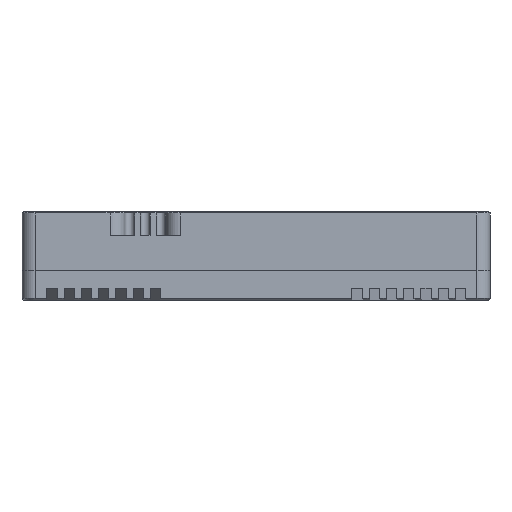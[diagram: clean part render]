
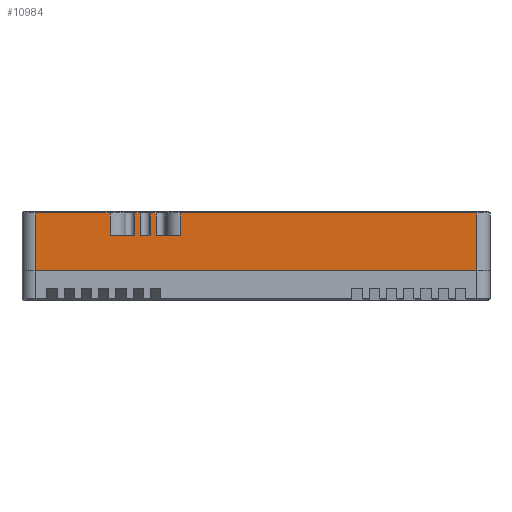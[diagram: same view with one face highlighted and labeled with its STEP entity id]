
A CAD part, front view. The second image highlights one B-rep face of the part: STEP entity #10984.
In plain terms, the highlighted planar face has unit normal (0, -1, 0).
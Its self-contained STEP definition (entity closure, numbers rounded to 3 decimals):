
#356 = EDGE_CURVE ( 'NONE', #24618, #16565, #3254, .T. ) ;
#422 = LINE ( 'NONE', #9062, #7147 ) ;
#469 = VECTOR ( 'NONE', #11800, 1000. ) ;
#552 = DIRECTION ( 'NONE',  ( 1., 0., 0. ) ) ;
#763 = DIRECTION ( 'NONE',  ( 0., 0., 1. ) ) ;
#1054 = CARTESIAN_POINT ( 'NONE',  ( -19.4, -15., 4.6 ) ) ;
#1132 = VERTEX_POINT ( 'NONE', #1054 ) ;
#1952 = EDGE_CURVE ( 'NONE', #26897, #9536, #422, .T. ) ;
#2014 = VECTOR ( 'NONE', #11668, 1000. ) ;
#2233 = VERTEX_POINT ( 'NONE', #32897 ) ;
#2495 = AXIS2_PLACEMENT_3D ( 'NONE', #16435, #26849, #19014 ) ;
#2503 = CARTESIAN_POINT ( 'NONE',  ( -12.7, -15., 4.6 ) ) ;
#3091 = VECTOR ( 'NONE', #6362, 1000. ) ;
#3134 = VECTOR ( 'NONE', #22084, 1000. ) ;
#3254 = LINE ( 'NONE', #15273, #11971 ) ;
#3715 = CARTESIAN_POINT ( 'NONE',  ( -17.8, -15., 8.3 ) ) ;
#3923 = VERTEX_POINT ( 'NONE', #30844 ) ;
#3998 = VERTEX_POINT ( 'NONE', #21116 ) ;
#4529 = VECTOR ( 'NONE', #20624, 1000. ) ;
#4909 = EDGE_CURVE ( 'NONE', #16565, #27508, #5363, .T. ) ;
#5109 = EDGE_CURVE ( 'NONE', #24606, #1132, #24399, .T. ) ;
#5363 = LINE ( 'NONE', #10158, #28356 ) ;
#5375 = CARTESIAN_POINT ( 'NONE',  ( -37.05, -15., 8.3 ) ) ;
#5820 = EDGE_CURVE ( 'NONE', #19105, #27508, #26006, .T. ) ;
#5823 = EDGE_CURVE ( 'NONE', #24618, #26897, #12526, .T. ) ;
#5951 = ORIENTED_EDGE ( 'NONE', *, *, #17058, .F. ) ;
#5981 = VECTOR ( 'NONE', #24376, 1000. ) ;
#6362 = DIRECTION ( 'NONE',  ( 1., 0., 0. ) ) ;
#6380 = ORIENTED_EDGE ( 'NONE', *, *, #1952, .T. ) ;
#6560 = CARTESIAN_POINT ( 'NONE',  ( -17.8, -15., 8.3 ) ) ;
#7002 = CARTESIAN_POINT ( 'NONE',  ( -24.5, -15., 8.3 ) ) ;
#7147 = VECTOR ( 'NONE', #14032, 1000. ) ;
#7191 = LINE ( 'NONE', #22252, #469 ) ;
#7494 = LINE ( 'NONE', #29825, #3134 ) ;
#7794 = EDGE_CURVE ( 'NONE', #3998, #10581, #28273, .T. ) ;
#8146 = VECTOR ( 'NONE', #19850, 1000. ) ;
#8393 = VECTOR ( 'NONE', #21807, 1000. ) ;
#8538 = ORIENTED_EDGE ( 'NONE', *, *, #7794, .T. ) ;
#8948 = EDGE_CURVE ( 'NONE', #27428, #3923, #27012, .T. ) ;
#9000 = ORIENTED_EDGE ( 'NONE', *, *, #28820, .F. ) ;
#9052 = CARTESIAN_POINT ( 'NONE',  ( -17.8, -15., 8.3 ) ) ;
#9062 = CARTESIAN_POINT ( 'NONE',  ( 36.95, -15., -1.3 ) ) ;
#9105 = PLANE ( 'NONE',  #2495 ) ;
#9536 = VERTEX_POINT ( 'NONE', #13998 ) ;
#9608 = CARTESIAN_POINT ( 'NONE',  ( -37.05, -15., -1.3 ) ) ;
#10158 = CARTESIAN_POINT ( 'NONE',  ( -37.05, -15., 8.3 ) ) ;
#10303 = ORIENTED_EDGE ( 'NONE', *, *, #5820, .T. ) ;
#10581 = VERTEX_POINT ( 'NONE', #2503 ) ;
#10681 = EDGE_LOOP ( 'NONE', ( #24512, #5951, #24014, #14441, #26543, #24586, #10303, #23547, #17389, #28512, #6380, #22921, #8538, #14587, #29502, #9000 ) ) ;
#10984 = ADVANCED_FACE ( 'NONE', ( #20933 ), #9105, .T. ) ;
#11379 = EDGE_CURVE ( 'NONE', #3998, #9536, #28836, .T. ) ;
#11668 = DIRECTION ( 'NONE',  ( 0., 0., -1. ) ) ;
#11800 = DIRECTION ( 'NONE',  ( -1., 0., 0. ) ) ;
#11971 = VECTOR ( 'NONE', #763, 1000. ) ;
#12035 = CARTESIAN_POINT ( 'NONE',  ( -24.5, -15., 4.6 ) ) ;
#12526 = LINE ( 'NONE', #9608, #29187 ) ;
#13998 = CARTESIAN_POINT ( 'NONE',  ( 36.95, -15., 8.3 ) ) ;
#14032 = DIRECTION ( 'NONE',  ( 0., 0., 1. ) ) ;
#14441 = ORIENTED_EDGE ( 'NONE', *, *, #25310, .F. ) ;
#14587 = ORIENTED_EDGE ( 'NONE', *, *, #32534, .T. ) ;
#15273 = CARTESIAN_POINT ( 'NONE',  ( -37.05, -15., -1.3 ) ) ;
#16001 = CARTESIAN_POINT ( 'NONE',  ( -17.8, -15., 4.6 ) ) ;
#16435 = CARTESIAN_POINT ( 'NONE',  ( -37.05, -15., -6.5 ) ) ;
#16565 = VERTEX_POINT ( 'NONE', #5375 ) ;
#17058 = EDGE_CURVE ( 'NONE', #1132, #27182, #20256, .T. ) ;
#17072 = VECTOR ( 'NONE', #20422, 1000. ) ;
#17158 = CARTESIAN_POINT ( 'NONE',  ( 36.95, -15., -1.3 ) ) ;
#17389 = ORIENTED_EDGE ( 'NONE', *, *, #356, .F. ) ;
#17891 = CARTESIAN_POINT ( 'NONE',  ( -19.4, -15., 4.6 ) ) ;
#18165 = CARTESIAN_POINT ( 'NONE',  ( -19.4, -15., 8.3 ) ) ;
#18778 = DIRECTION ( 'NONE',  ( 1., 0., 0. ) ) ;
#19014 = DIRECTION ( 'NONE',  ( 0., 0., -1. ) ) ;
#19105 = VERTEX_POINT ( 'NONE', #12035 ) ;
#19196 = CARTESIAN_POINT ( 'NONE',  ( -20.4, -15., 8.3 ) ) ;
#19850 = DIRECTION ( 'NONE',  ( 0., 0., 1. ) ) ;
#19980 = VERTEX_POINT ( 'NONE', #9052 ) ;
#19999 = LINE ( 'NONE', #22351, #24739 ) ;
#20256 = LINE ( 'NONE', #17891, #17072 ) ;
#20422 = DIRECTION ( 'NONE',  ( 1., 0., 0. ) ) ;
#20624 = DIRECTION ( 'NONE',  ( 1., 0., 0. ) ) ;
#20794 = DIRECTION ( 'NONE',  ( 0., 0., -1. ) ) ;
#20933 = FACE_OUTER_BOUND ( 'NONE', #10681, .T. ) ;
#21116 = CARTESIAN_POINT ( 'NONE',  ( -12.7, -15., 8.3 ) ) ;
#21807 = DIRECTION ( 'NONE',  ( 0., 0., -1. ) ) ;
#21946 = CARTESIAN_POINT ( 'NONE',  ( -16.8, -15., 8.3 ) ) ;
#22084 = DIRECTION ( 'NONE',  ( -1., 0., 0. ) ) ;
#22133 = VECTOR ( 'NONE', #18778, 1000. ) ;
#22248 = DIRECTION ( 'NONE',  ( 0., 0., -1. ) ) ;
#22252 = CARTESIAN_POINT ( 'NONE',  ( -20.4, -15., 4.6 ) ) ;
#22351 = CARTESIAN_POINT ( 'NONE',  ( -16.8, -15., 8.3 ) ) ;
#22819 = CARTESIAN_POINT ( 'NONE',  ( -24.5, -15., 4.6 ) ) ;
#22921 = ORIENTED_EDGE ( 'NONE', *, *, #11379, .F. ) ;
#23177 = CARTESIAN_POINT ( 'NONE',  ( -20.4, -15., 8.3 ) ) ;
#23289 = VERTEX_POINT ( 'NONE', #21946 ) ;
#23547 = ORIENTED_EDGE ( 'NONE', *, *, #4909, .F. ) ;
#24014 = ORIENTED_EDGE ( 'NONE', *, *, #5109, .F. ) ;
#24376 = DIRECTION ( 'NONE',  ( 0., 0., -1. ) ) ;
#24399 = LINE ( 'NONE', #18165, #29921 ) ;
#24476 = EDGE_CURVE ( 'NONE', #3923, #19105, #7191, .T. ) ;
#24512 = ORIENTED_EDGE ( 'NONE', *, *, #31847, .T. ) ;
#24586 = ORIENTED_EDGE ( 'NONE', *, *, #24476, .T. ) ;
#24606 = VERTEX_POINT ( 'NONE', #27875 ) ;
#24618 = VERTEX_POINT ( 'NONE', #30084 ) ;
#24739 = VECTOR ( 'NONE', #22248, 1000. ) ;
#24866 = CARTESIAN_POINT ( 'NONE',  ( -20.4, -15., 8.3 ) ) ;
#25145 = LINE ( 'NONE', #23177, #4529 ) ;
#25310 = EDGE_CURVE ( 'NONE', #27428, #24606, #25145, .T. ) ;
#25527 = EDGE_CURVE ( 'NONE', #23289, #2233, #19999, .T. ) ;
#26006 = LINE ( 'NONE', #22819, #8146 ) ;
#26543 = ORIENTED_EDGE ( 'NONE', *, *, #8948, .T. ) ;
#26849 = DIRECTION ( 'NONE',  ( 0., -1., 0. ) ) ;
#26897 = VERTEX_POINT ( 'NONE', #17158 ) ;
#27012 = LINE ( 'NONE', #19196, #5981 ) ;
#27182 = VERTEX_POINT ( 'NONE', #16001 ) ;
#27428 = VERTEX_POINT ( 'NONE', #24866 ) ;
#27508 = VERTEX_POINT ( 'NONE', #7002 ) ;
#27563 = DIRECTION ( 'NONE',  ( 1., 0., 0. ) ) ;
#27875 = CARTESIAN_POINT ( 'NONE',  ( -19.4, -15., 8.3 ) ) ;
#28273 = LINE ( 'NONE', #31853, #8393 ) ;
#28356 = VECTOR ( 'NONE', #552, 1000. ) ;
#28512 = ORIENTED_EDGE ( 'NONE', *, *, #5823, .T. ) ;
#28820 = EDGE_CURVE ( 'NONE', #19980, #23289, #28841, .T. ) ;
#28836 = LINE ( 'NONE', #31368, #22133 ) ;
#28841 = LINE ( 'NONE', #3715, #3091 ) ;
#29187 = VECTOR ( 'NONE', #27563, 1000. ) ;
#29502 = ORIENTED_EDGE ( 'NONE', *, *, #25527, .F. ) ;
#29825 = CARTESIAN_POINT ( 'NONE',  ( -12.7, -15., 4.6 ) ) ;
#29921 = VECTOR ( 'NONE', #20794, 1000. ) ;
#30084 = CARTESIAN_POINT ( 'NONE',  ( -37.05, -15., -1.3 ) ) ;
#30844 = CARTESIAN_POINT ( 'NONE',  ( -20.4, -15., 4.6 ) ) ;
#30925 = LINE ( 'NONE', #6560, #2014 ) ;
#31368 = CARTESIAN_POINT ( 'NONE',  ( -12.7, -15., 8.3 ) ) ;
#31847 = EDGE_CURVE ( 'NONE', #19980, #27182, #30925, .T. ) ;
#31853 = CARTESIAN_POINT ( 'NONE',  ( -12.7, -15., 8.3 ) ) ;
#32534 = EDGE_CURVE ( 'NONE', #10581, #2233, #7494, .T. ) ;
#32897 = CARTESIAN_POINT ( 'NONE',  ( -16.8, -15., 4.6 ) ) ;
